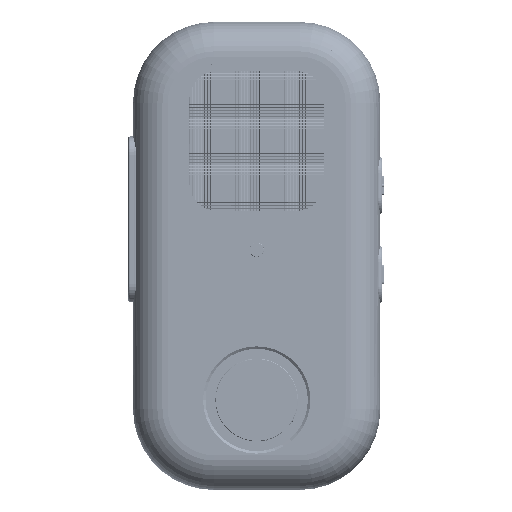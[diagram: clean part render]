
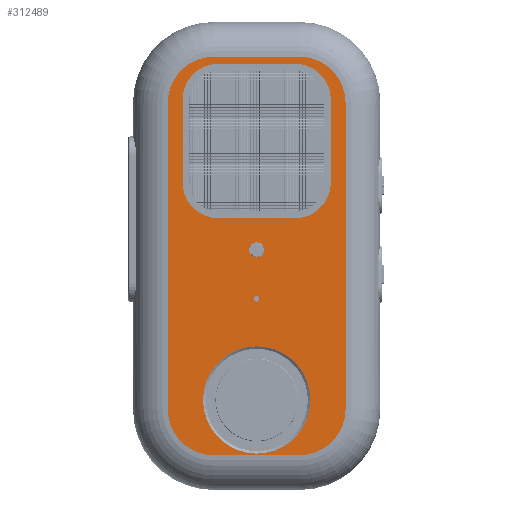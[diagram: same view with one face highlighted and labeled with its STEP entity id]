
A CAD part, top view. The second image highlights one B-rep face of the part: STEP entity #312489.
In plain terms, the highlighted planar face has unit normal (0, 0, 1).
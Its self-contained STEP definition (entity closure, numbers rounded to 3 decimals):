
#8934=FACE_BOUND('',#49980,.T.);
#8935=FACE_BOUND('',#49981,.T.);
#8936=FACE_BOUND('',#49982,.T.);
#8937=FACE_BOUND('',#49983,.T.);
#9853=PLANE('',#339069);
#28027=FACE_OUTER_BOUND('',#49979,.T.);
#49979=EDGE_LOOP('',(#222396,#222397,#222398,#222399,#222400,#222401,#222402,
#222403));
#49980=EDGE_LOOP('',(#222404));
#49981=EDGE_LOOP('',(#222405));
#49982=EDGE_LOOP('',(#222406,#222407,#222408,#222409,#222410,#222411,#222412,
#222413));
#49983=EDGE_LOOP('',(#222414));
#72289=LINE('',#454680,#109497);
#72293=LINE('',#454692,#109501);
#72301=LINE('',#454715,#109509);
#72302=LINE('',#454717,#109510);
#73097=LINE('',#458122,#110305);
#73098=LINE('',#458126,#110306);
#73099=LINE('',#458130,#110307);
#73100=LINE('',#458134,#110308);
#109497=VECTOR('',#364830,10.);
#109501=VECTOR('',#364842,10.);
#109509=VECTOR('',#364866,10.);
#109510=VECTOR('',#364869,10.);
#110305=VECTOR('',#367084,1.);
#110306=VECTOR('',#367087,1.);
#110307=VECTOR('',#367090,1.);
#110308=VECTOR('',#367093,1.);
#146638=CIRCLE('',#338275,2.45);
#146673=CIRCLE('',#338335,17.5);
#146678=CIRCLE('',#338344,11.7);
#146680=CIRCLE('',#338348,11.7);
#146682=CIRCLE('',#338352,11.7);
#146685=CIRCLE('',#338357,11.7);
#147080=CIRCLE('',#339070,15.);
#147081=CIRCLE('',#339071,15.);
#147082=CIRCLE('',#339072,15.);
#147083=CIRCLE('',#339073,15.);
#147084=CIRCLE('',#339074,0.9);
#150840=VERTEX_POINT('',#454459);
#150911=VERTEX_POINT('',#454653);
#150916=VERTEX_POINT('',#454670);
#150917=VERTEX_POINT('',#454671);
#150920=VERTEX_POINT('',#454679);
#150922=VERTEX_POINT('',#454685);
#150924=VERTEX_POINT('',#454691);
#150926=VERTEX_POINT('',#454697);
#150927=VERTEX_POINT('',#454698);
#150931=VERTEX_POINT('',#454711);
#151854=VERTEX_POINT('',#458120);
#151855=VERTEX_POINT('',#458121);
#151856=VERTEX_POINT('',#458123);
#151857=VERTEX_POINT('',#458125);
#151858=VERTEX_POINT('',#458127);
#151859=VERTEX_POINT('',#458129);
#151860=VERTEX_POINT('',#458131);
#151861=VERTEX_POINT('',#458133);
#151862=VERTEX_POINT('',#458136);
#175081=EDGE_CURVE('',#150840,#150840,#146638,.T.);
#175179=EDGE_CURVE('',#150911,#150911,#146673,.T.);
#175186=EDGE_CURVE('',#150916,#150917,#146678,.T.);
#175190=EDGE_CURVE('',#150917,#150920,#72289,.T.);
#175193=EDGE_CURVE('',#150920,#150922,#146680,.T.);
#175196=EDGE_CURVE('',#150922,#150924,#72293,.T.);
#175199=EDGE_CURVE('',#150926,#150927,#146682,.T.);
#175206=EDGE_CURVE('',#150924,#150931,#146685,.T.);
#175208=EDGE_CURVE('',#150931,#150926,#72301,.T.);
#175209=EDGE_CURVE('',#150927,#150916,#72302,.T.);
#176472=EDGE_CURVE('',#151854,#151855,#73097,.T.);
#176473=EDGE_CURVE('',#151856,#151854,#147080,.T.);
#176474=EDGE_CURVE('',#151857,#151856,#73098,.T.);
#176475=EDGE_CURVE('',#151858,#151857,#147081,.T.);
#176476=EDGE_CURVE('',#151859,#151858,#73099,.T.);
#176477=EDGE_CURVE('',#151860,#151859,#147082,.T.);
#176478=EDGE_CURVE('',#151861,#151860,#73100,.T.);
#176479=EDGE_CURVE('',#151855,#151861,#147083,.T.);
#176480=EDGE_CURVE('',#151862,#151862,#147084,.T.);
#222396=ORIENTED_EDGE('',*,*,#176472,.F.);
#222397=ORIENTED_EDGE('',*,*,#176473,.F.);
#222398=ORIENTED_EDGE('',*,*,#176474,.F.);
#222399=ORIENTED_EDGE('',*,*,#176475,.F.);
#222400=ORIENTED_EDGE('',*,*,#176476,.F.);
#222401=ORIENTED_EDGE('',*,*,#176477,.F.);
#222402=ORIENTED_EDGE('',*,*,#176478,.F.);
#222403=ORIENTED_EDGE('',*,*,#176479,.F.);
#222404=ORIENTED_EDGE('',*,*,#175081,.T.);
#222405=ORIENTED_EDGE('',*,*,#175179,.T.);
#222406=ORIENTED_EDGE('',*,*,#175206,.T.);
#222407=ORIENTED_EDGE('',*,*,#175208,.T.);
#222408=ORIENTED_EDGE('',*,*,#175199,.T.);
#222409=ORIENTED_EDGE('',*,*,#175209,.T.);
#222410=ORIENTED_EDGE('',*,*,#175186,.T.);
#222411=ORIENTED_EDGE('',*,*,#175190,.T.);
#222412=ORIENTED_EDGE('',*,*,#175193,.T.);
#222413=ORIENTED_EDGE('',*,*,#175196,.T.);
#222414=ORIENTED_EDGE('',*,*,#176480,.T.);
#312489=ADVANCED_FACE('',(#28027,#8934,#8935,#8936,#8937),#9853,.F.);
#338275=AXIS2_PLACEMENT_3D('',#454461,#364619,#364620);
#338335=AXIS2_PLACEMENT_3D('',#454655,#364802,#364803);
#338344=AXIS2_PLACEMENT_3D('',#454672,#364822,#364823);
#338348=AXIS2_PLACEMENT_3D('',#454686,#364835,#364836);
#338352=AXIS2_PLACEMENT_3D('',#454699,#364847,#364848);
#338357=AXIS2_PLACEMENT_3D('',#454712,#364861,#364862);
#339069=AXIS2_PLACEMENT_3D('',#458119,#367082,#367083);
#339070=AXIS2_PLACEMENT_3D('',#458124,#367085,#367086);
#339071=AXIS2_PLACEMENT_3D('',#458128,#367088,#367089);
#339072=AXIS2_PLACEMENT_3D('',#458132,#367091,#367092);
#339073=AXIS2_PLACEMENT_3D('',#458135,#367094,#367095);
#339074=AXIS2_PLACEMENT_3D('',#458137,#367096,#367097);
#364619=DIRECTION('center_axis',(0.,0.,-1.));
#364620=DIRECTION('ref_axis',(1.,0.,0.));
#364802=DIRECTION('center_axis',(0.,0.,-1.));
#364803=DIRECTION('ref_axis',(1.,0.,0.));
#364822=DIRECTION('center_axis',(0.,0.,-1.));
#364823=DIRECTION('ref_axis',(1.,0.,0.));
#364830=DIRECTION('',(0.,-1.,0.));
#364835=DIRECTION('center_axis',(0.,0.,-1.));
#364836=DIRECTION('ref_axis',(1.,0.,0.));
#364842=DIRECTION('',(-1.,0.,0.));
#364847=DIRECTION('center_axis',(0.,0.,-1.));
#364848=DIRECTION('ref_axis',(1.,0.,0.));
#364861=DIRECTION('center_axis',(0.,0.,-1.));
#364862=DIRECTION('ref_axis',(1.,0.,0.));
#364866=DIRECTION('',(0.,1.,0.));
#364869=DIRECTION('',(1.,0.,0.));
#367082=DIRECTION('center_axis',(0.,0.,-1.));
#367083=DIRECTION('ref_axis',(-1.,0.,0.));
#367084=DIRECTION('',(-1.,0.,0.));
#367085=DIRECTION('center_axis',(0.,0.,-1.));
#367086=DIRECTION('ref_axis',(0.707,-0.707,0.));
#367087=DIRECTION('',(0.,-1.,0.));
#367088=DIRECTION('center_axis',(0.,0.,-1.));
#367089=DIRECTION('ref_axis',(0.707,0.707,0.));
#367090=DIRECTION('',(1.,0.,0.));
#367091=DIRECTION('center_axis',(0.,0.,-1.));
#367092=DIRECTION('ref_axis',(-0.707,0.707,0.));
#367093=DIRECTION('',(0.,1.,0.));
#367094=DIRECTION('center_axis',(0.,0.,-1.));
#367095=DIRECTION('ref_axis',(-0.707,-0.707,0.));
#367096=DIRECTION('center_axis',(0.,0.,-1.));
#367097=DIRECTION('ref_axis',(-1.,0.,0.));
#454459=CARTESIAN_POINT('',(-2.45,2.,0.));
#454461=CARTESIAN_POINT('Origin',(0.,2.,0.));
#454653=CARTESIAN_POINT('',(-17.5,-47.,0.));
#454655=CARTESIAN_POINT('Origin',(0.,-47.,0.));
#454670=CARTESIAN_POINT('',(12.5,62.7,0.));
#454671=CARTESIAN_POINT('',(24.2,51.,0.));
#454672=CARTESIAN_POINT('Origin',(12.5,51.,0.));
#454679=CARTESIAN_POINT('',(24.2,24.,0.));
#454680=CARTESIAN_POINT('',(24.2,18.75,0.));
#454685=CARTESIAN_POINT('',(12.5,12.3,0.));
#454686=CARTESIAN_POINT('Origin',(12.5,24.,0.));
#454691=CARTESIAN_POINT('',(-12.5,12.3,0.));
#454692=CARTESIAN_POINT('',(0.,12.3,0.));
#454697=CARTESIAN_POINT('',(-24.2,51.,0.));
#454698=CARTESIAN_POINT('',(-12.5,62.7,0.));
#454699=CARTESIAN_POINT('Origin',(-12.5,51.,0.));
#454711=CARTESIAN_POINT('',(-24.2,24.,0.));
#454712=CARTESIAN_POINT('Origin',(-12.5,24.,0.));
#454715=CARTESIAN_POINT('',(-24.2,18.75,0.));
#454717=CARTESIAN_POINT('',(0.,62.7,0.));
#458119=CARTESIAN_POINT('Origin',(0.,0.,0.));
#458120=CARTESIAN_POINT('',(14.,-65.,0.));
#458121=CARTESIAN_POINT('',(-14.,-65.,0.));
#458122=CARTESIAN_POINT('',(7.,-65.,0.));
#458123=CARTESIAN_POINT('',(29.,-50.,0.));
#458124=CARTESIAN_POINT('Origin',(14.,-50.,0.));
#458125=CARTESIAN_POINT('',(29.,50.,0.));
#458126=CARTESIAN_POINT('',(29.,25.,0.));
#458127=CARTESIAN_POINT('',(14.,65.,0.));
#458128=CARTESIAN_POINT('Origin',(14.,50.,0.));
#458129=CARTESIAN_POINT('',(-14.,65.,0.));
#458130=CARTESIAN_POINT('',(-7.,65.,0.));
#458131=CARTESIAN_POINT('',(-29.,50.,0.));
#458132=CARTESIAN_POINT('Origin',(-14.,50.,0.));
#458133=CARTESIAN_POINT('',(-29.,-50.,0.));
#458134=CARTESIAN_POINT('',(-29.,-25.,0.));
#458135=CARTESIAN_POINT('Origin',(-14.,-50.,0.));
#458136=CARTESIAN_POINT('',(0.9,-14.,0.));
#458137=CARTESIAN_POINT('Origin',(0.,-14.,0.));
